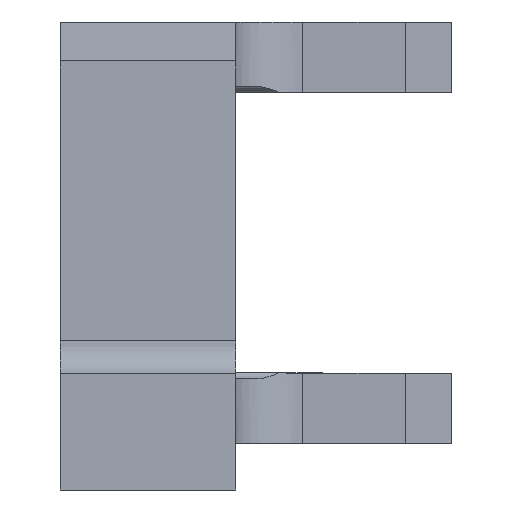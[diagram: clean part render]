
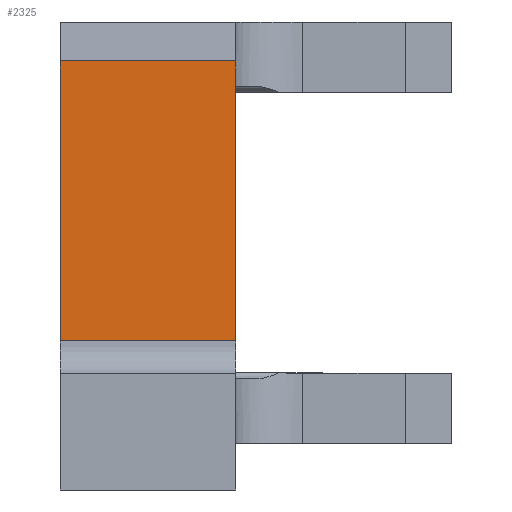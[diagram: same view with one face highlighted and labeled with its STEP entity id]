
A CAD part, left-side view. The second image highlights one B-rep face of the part: STEP entity #2325.
In plain terms, the highlighted planar face has unit normal (-1, 0, 0).
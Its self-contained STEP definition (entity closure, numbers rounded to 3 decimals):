
#897=CARTESIAN_POINT('',(-80.866,8.585,-4.663));
#898=VERTEX_POINT('',#897);
#905=CARTESIAN_POINT('',(-80.866,8.585,-52.5));
#906=VERTEX_POINT('',#905);
#907=CARTESIAN_POINT('',(-80.866,8.585,-52.5));
#908=DIRECTION('',(0.0,0.0,1.0));
#909=VECTOR('',#908,47.837);
#910=LINE('',#907,#909);
#911=EDGE_CURVE('',#906,#898,#910,.T.);
#1874=CARTESIAN_POINT('',(-80.866,38.585,-4.663));
#1875=VERTEX_POINT('',#1874);
#1988=CARTESIAN_POINT('',(-80.866,38.585,-52.5));
#1989=VERTEX_POINT('',#1988);
#1997=CARTESIAN_POINT('',(-80.866,38.585,-4.663));
#1998=DIRECTION('',(0.0,0.0,-1.0));
#1999=VECTOR('',#1998,47.837);
#2000=LINE('',#1997,#1999);
#2001=EDGE_CURVE('',#1875,#1989,#2000,.T.);
#2300=CARTESIAN_POINT('',(-80.866,8.585,-4.663));
#2301=DIRECTION('',(0.0,1.0,0.0));
#2302=VECTOR('',#2301,30.);
#2303=LINE('',#2300,#2302);
#2304=EDGE_CURVE('',#898,#1875,#2303,.T.);
#2309=CARTESIAN_POINT('',(-80.866,40.085,-52.5));
#2310=DIRECTION('',(1.0,0.0,0.0));
#2311=DIRECTION('',(0.0,0.0,-1.0));
#2312=AXIS2_PLACEMENT_3D('',#2309,#2310,#2311);
#2313=PLANE('',#2312);
#2314=ORIENTED_EDGE('',*,*,#911,.T.);
#2315=ORIENTED_EDGE('',*,*,#2304,.T.);
#2316=ORIENTED_EDGE('',*,*,#2001,.T.);
#2317=CARTESIAN_POINT('',(-80.866,8.585,-52.5));
#2318=DIRECTION('',(0.0,1.0,0.0));
#2319=VECTOR('',#2318,30.);
#2320=LINE('',#2317,#2319);
#2321=EDGE_CURVE('',#906,#1989,#2320,.T.);
#2322=ORIENTED_EDGE('',*,*,#2321,.F.);
#2323=EDGE_LOOP('',(#2314,#2315,#2316,#2322));
#2324=FACE_OUTER_BOUND('',#2323,.T.);
#2325=ADVANCED_FACE('',(#2324),#2313,.F.);
